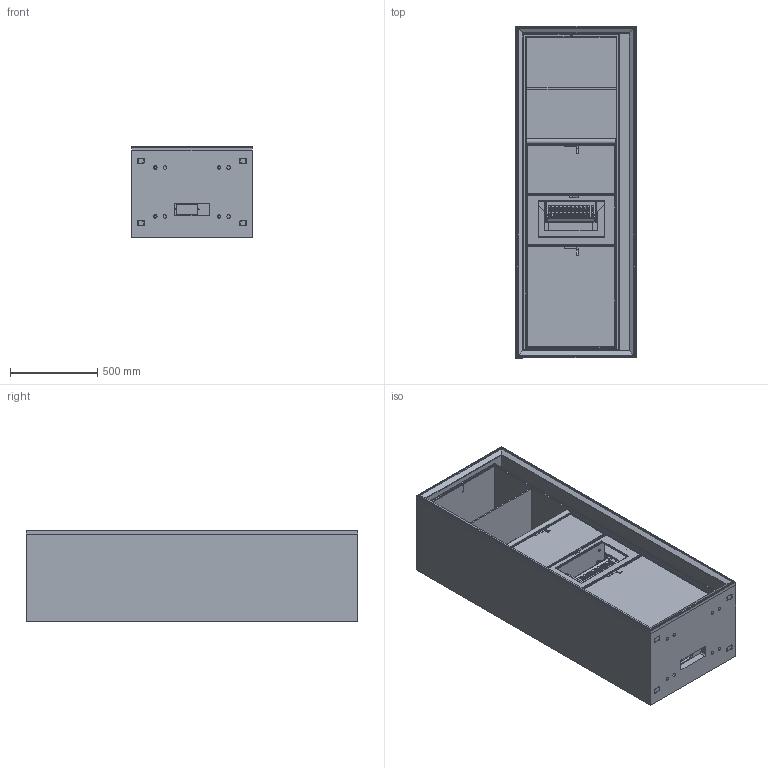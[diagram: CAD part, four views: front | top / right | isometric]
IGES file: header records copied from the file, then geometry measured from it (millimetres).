
Global section: file name: 80085; native system: Autodesk Inventor 2014; preprocessor: unknown; author: Robertom; date: 20140526.112724; units: millimetre
Bounding box: 690 x 1900 x 520 mm (x, y, z)
Volume: 224514937.6 mm3; surface area: 27382786.6 mm2
Topology: 79 solids, 79 shells, 3049 faces, 16753 edges, 14781 vertices
Faces by surface type: bspline 2161, plane 461, revolution 427
